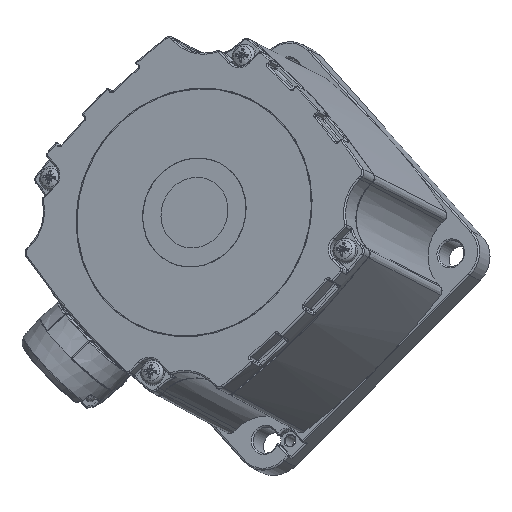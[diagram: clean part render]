
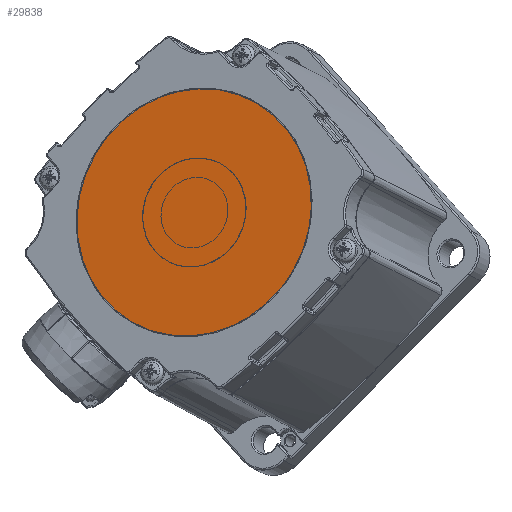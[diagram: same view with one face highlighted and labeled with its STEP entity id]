
A CAD part, top view. The second image highlights one B-rep face of the part: STEP entity #29838.
In plain terms, the highlighted planar face has unit normal (-0.366, 0.191, 0.911).
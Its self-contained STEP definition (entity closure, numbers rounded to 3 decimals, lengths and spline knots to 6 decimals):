
#7166=PLANE('',#32769);
#8696=FACE_OUTER_BOUND('',#10589,.T.);
#10589=EDGE_LOOP('',(#25875));
#12175=CIRCLE('',#32770,0.04025);
#14726=VERTEX_POINT('',#57351);
#18540=EDGE_CURVE('',#14726,#14726,#12175,.T.);
#25875=ORIENTED_EDGE('',*,*,#18540,.T.);
#29838=ADVANCED_FACE('',(#8696),#7166,.T.);
#32769=AXIS2_PLACEMENT_3D('',#57350,#39881,#39882);
#32770=AXIS2_PLACEMENT_3D('',#57352,#39883,#39884);
#39881=DIRECTION('center_axis',(-0.366,0.191,0.911));
#39882=DIRECTION('ref_axis',(0.928,0.,0.372));
#39883=DIRECTION('center_axis',(-0.366,0.191,0.911));
#39884=DIRECTION('ref_axis',(-0.93,-0.036,-0.366));
#57350=CARTESIAN_POINT('Origin',(-0.204255,0.146225,-0.112523));
#57351=CARTESIAN_POINT('',(-0.166821,0.147692,-0.097806));
#57352=CARTESIAN_POINT('Origin',(-0.204255,0.146225,-0.112523));
